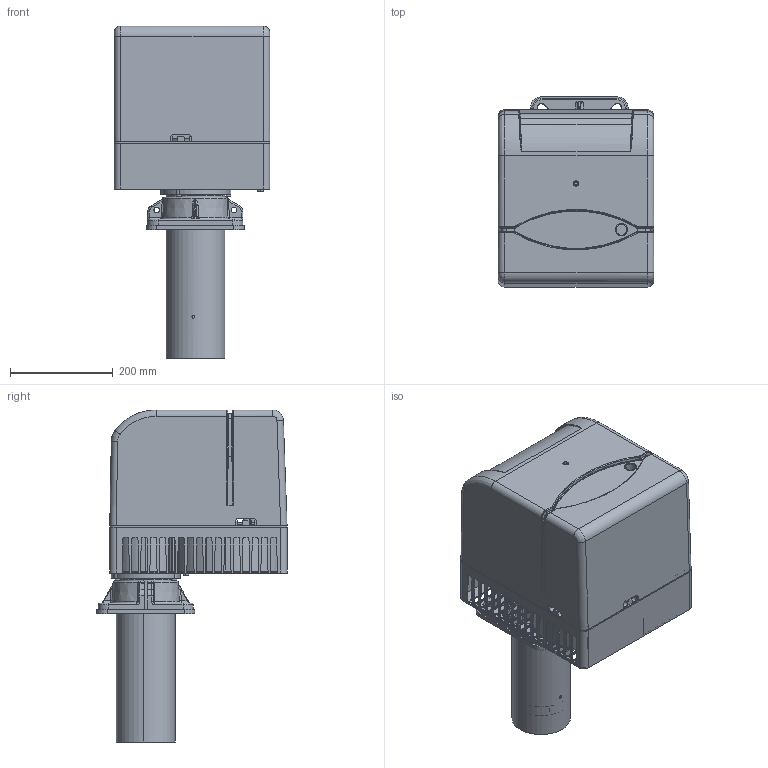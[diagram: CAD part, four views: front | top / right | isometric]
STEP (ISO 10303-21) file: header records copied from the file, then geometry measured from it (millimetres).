
FILE_DESCRIPTION (( 'STEP AP203' ), '1' );
FILE_NAME ('35640010-130660.STEP', '2017-06-14T12:00:59', ( '' ), ( '' ), 'SwSTEP 2.0', 'SolidWorks 2016', '' );
FILE_SCHEMA (( 'CONFIG_CONTROL_DESIGN' ));
Length unit declared in the file: millimetre
Products named in the file (11): 8023020001-114151; 0023020025-114329; 35640010-130660; 0023020006-130330-AUTO; 849320-130716; 0023020006-130329; 0023020024-126419; 0023020021-114089; 0023020006-130331-AUTO; hexalobular socket pan head_iso_ISO 14583 - M5 x 12 -4.8-C; 49319-130713
Assembly tree (13 placements, depth 3):
  35640010-130660
    8023020001-114151
    0023020025-114329
    0023020024-126419
    0023020006-130329
      0023020006-130330-AUTO
      0023020006-130331-AUTO
    0023020021-114089
    849320-130716  x2
    hexalobular socket pan head_iso_ISO 14583 - M5 x 12 -4.8-C  x3
    49319-130713
Bounding box: 303 x 370 x 646.1 mm (x, y, z)
Volume: 2881508.4 mm3; surface area: 1994661.6 mm2
Topology: 16 solids, 16 shells, 2638 faces, 7298 edges, 4705 vertices
Faces by surface type: cylinder 1109, plane 1086, bspline 291, torus 76, cone 70, sphere 6
Entity records: 101406 total; most frequent: CARTESIAN_POINT 37383, ORIENTED_EDGE 13606, DIRECTION 12730, EDGE_CURVE 6803, AXIS2_PLACEMENT_3D 4471, VERTEX_POINT 4413, LINE 3788, VECTOR 3788
